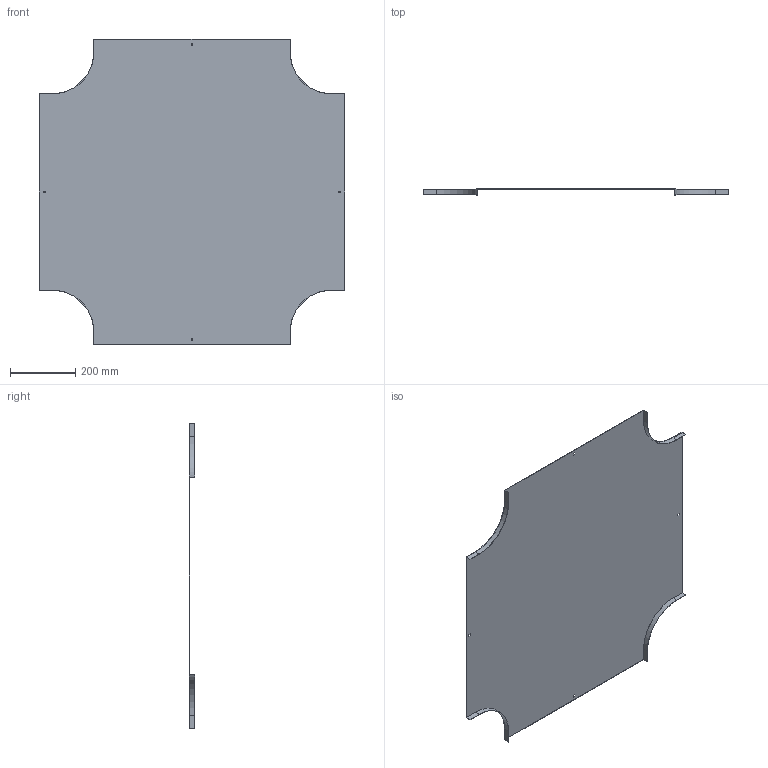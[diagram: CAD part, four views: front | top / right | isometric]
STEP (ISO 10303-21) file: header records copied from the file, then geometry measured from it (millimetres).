
FILE_DESCRIPTION (( 'STEP AP214' ), '1' );
FILE_NAME ('OC_600.step', '2025-07-16T09:11:04', ( '' ), ( '' ), 'SwSTEP 2.0', 'SolidWorks 2023', '' );
FILE_SCHEMA (( 'AUTOMOTIVE_DESIGN' ));
Length unit declared in the file: millimetre
Products named in the file (1): OC_600
Bounding box: 934 x 17 x 934 mm (x, y, z)
Volume: 793429.2 mm3; surface area: 1590610.2 mm2
Topology: 1 solids, 1 shells, 50 faces, 144 edges, 96 vertices
Faces by surface type: plane 42, cylinder 8
Entity records: 1663 total; most frequent: CARTESIAN_POINT 291, ORIENTED_EDGE 288, DIRECTION 262, EDGE_CURVE 144, LINE 128, VECTOR 128, VERTEX_POINT 96, AXIS2_PLACEMENT_3D 67
